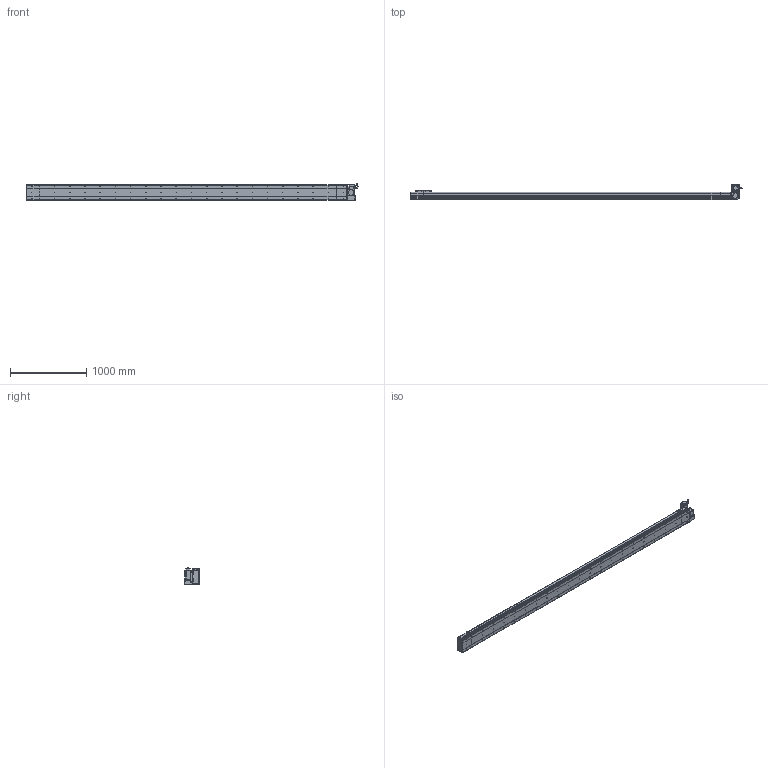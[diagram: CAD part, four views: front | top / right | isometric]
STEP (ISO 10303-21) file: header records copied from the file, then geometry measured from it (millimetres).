
FILE_DESCRIPTION (( 'STEP AP214' ), '1' );
FILE_NAME ('D20 CBH RT S3900.STEP', '2010-06-30T11:14:20', ( 'Conseil Régional Haute-Normandie' ), ( 'Conseil Régional Haute-Normandie' ), 'SwSTEP 2.0', 'SolidWorks 2010', '' );
FILE_SCHEMA (( 'AUTOMOTIVE_DESIGN' ));
Length unit declared in the file: millimetre
Products named in the file (31): Conecteur_Default; Corp D20 S3900_Default; Tail D20+100_Default; Chariot D20_Default; Support Chariot D20_Default; vis M5 L47_Default; Couvercle RT_Default; Plaque de Bout Head D20 RT_Default; Corp Tail D20+100_Default; D20 CBH RT S3900; Plaque De Serrage D20_Default; Plaque De Serrage D20 RT_Default; ecrou_Default; Moteur motionking 90BLDC125A-640; Support moteur RT_Default; Head RT_Default; Rondelle Cache D20 RT_Default; Corp S3900_Default; Couvercle S3900_Default; Glissiere_Default; corps 90BLDC125A-640; Corp Tail D20 RT_Default; Cache Support Moteur RT_Default; vis M5 L15_Default; codeur 90BLDC125-640; Conecteur2_Default; Couvercle_Default; avant 90BLDC125A-640; vis M5 L30_Default; Plaque de Bout Tail D20_Default
Assembly tree (68 placements, depth 4):
  D20 CBH RT S3900
    Chariot D20_Default
      vis M5 L15_Default  x8
      Chariot D20_Default
      Support Chariot D20_Default
      Glissiere_Default
    Head RT_Default
      vis M5 L15_Default  x14
      Corp Tail D20 RT_Default
      vis M5 L30_Default  x4
      ecrou_Default  x4
      vis M5 L47_Default  x4
      Rondelle Cache D20 RT_Default  x3
      Moteur motionking 90BLDC125A-640
        avant 90BLDC125A-640
        Conecteur_Default
        codeur 90BLDC125-640
        Conecteur2_Default
        corps 90BLDC125A-640
      Support moteur RT_Default
      Plaque De Serrage D20 RT_Default
      Plaque de Bout Head D20 RT_Default
      Couvercle RT_Default
      Cache Support Moteur RT_Default
    Tail D20+100_Default
      Corp Tail D20+100_Default
      vis M5 L15_Default  x6
      Plaque de Bout Tail D20_Default
      Couvercle_Default
      Plaque De Serrage D20_Default
    Corp D20 S3900_Default
      Couvercle S3900_Default
      Corp S3900_Default
Bounding box: 4364.45 x 206.5 x 229.7 mm (x, y, z)
Volume: 28927067.2 mm3; surface area: 5515765.3 mm2
Topology: 105 solids, 105 shells, 3910 faces, 9696 edges, 6298 vertices
Faces by surface type: plane 2161, bspline 806, cylinder 772, torus 95, cone 72, sphere 4
Entity records: 161990 total; most frequent: CARTESIAN_POINT 82736, ORIENTED_EDGE 15660, DIRECTION 12118, EDGE_CURVE 7830, VERTEX_POINT 5182, LINE 5014, VECTOR 5014, AXIS2_PLACEMENT_3D 3552
